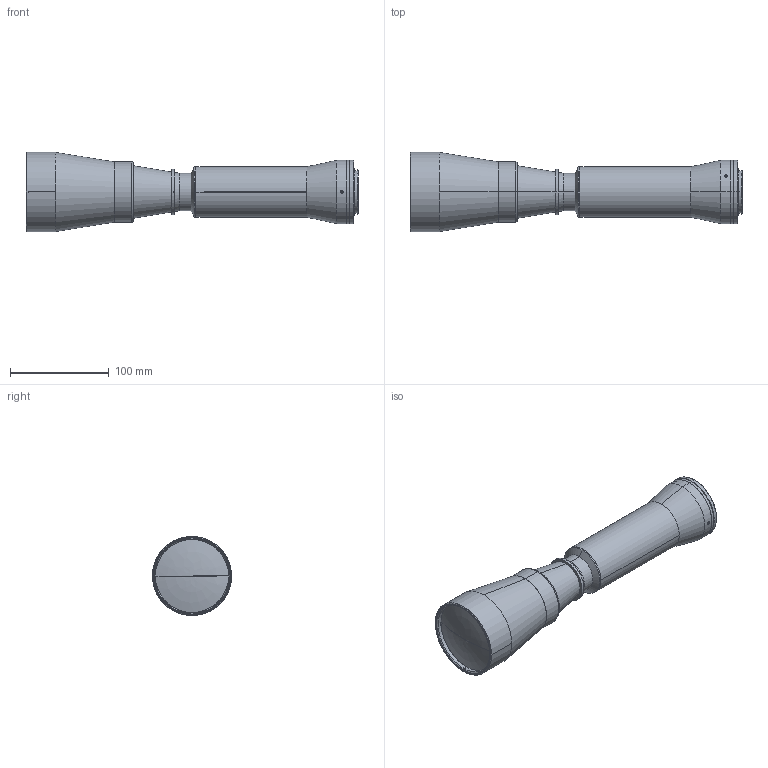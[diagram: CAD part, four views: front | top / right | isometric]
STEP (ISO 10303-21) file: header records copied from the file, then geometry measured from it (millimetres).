
FILE_DESCRIPTION(('LS-TCL-0155'),'2;1');
FILE_NAME('LS-TCL-0155.stp','2026-10-15T21:54:15',('LumaSpec Vision'),('LumaSpec Vision'),'LumaSpec Vision','LumaSpec Vision','');
FILE_SCHEMA(('AUTOMOTIVE_DESIGN { 1 0 10303 214 1 1 1 1 }'));
Length unit declared in the file: millimetre
Products named in the file (145): LumaSpec Vision
Assembly tree (144 placements, depth 2):
  LumaSpec Vision
    LumaSpec Vision
    LumaSpec Vision
    LumaSpec Vision
    LumaSpec Vision
    LumaSpec Vision
    LumaSpec Vision
    LumaSpec Vision
    LumaSpec Vision
    LumaSpec Vision
    LumaSpec Vision
    LumaSpec Vision
    LumaSpec Vision
    LumaSpec Vision
    LumaSpec Vision
    LumaSpec Vision
    LumaSpec Vision
    LumaSpec Vision
    LumaSpec Vision
    LumaSpec Vision
    LumaSpec Vision
    LumaSpec Vision
    LumaSpec Vision
    LumaSpec Vision
    LumaSpec Vision
    LumaSpec Vision
    LumaSpec Vision
    LumaSpec Vision
    LumaSpec Vision
    LumaSpec Vision
    LumaSpec Vision
    LumaSpec Vision
    LumaSpec Vision
    LumaSpec Vision
    LumaSpec Vision
    LumaSpec Vision
    LumaSpec Vision
    LumaSpec Vision
    LumaSpec Vision
    LumaSpec Vision
    LumaSpec Vision
    LumaSpec Vision
    LumaSpec Vision
    LumaSpec Vision
    LumaSpec Vision
    LumaSpec Vision
    LumaSpec Vision
    LumaSpec Vision
    LumaSpec Vision
    LumaSpec Vision
    LumaSpec Vision
    LumaSpec Vision
    LumaSpec Vision
    LumaSpec Vision
    LumaSpec Vision
    LumaSpec Vision
    LumaSpec Vision
    LumaSpec Vision
    LumaSpec Vision
    LumaSpec Vision
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Bounding box: 335.96 x 80 x 80 mm (x, y, z)
Surface area: 86043.9 mm2 (no closed solid volume)
Topology: 0 solids, 144 shells, 144 faces, 2747 edges, 2746 vertices
Faces by surface type: revolution 84, bspline 60
Entity records: 45536 total; most frequent: CARTESIAN_POINT 18470, B_SPLINE_CURVE_WITH_KNOTS 4927, ORIENTED_EDGE 2746, EDGE_CURVE 2746, VERTEX_POINT 2746, SURFACE_CURVE 2746, PCURVE 2746, DEFINITIONAL_REPRESENTATION 2746
